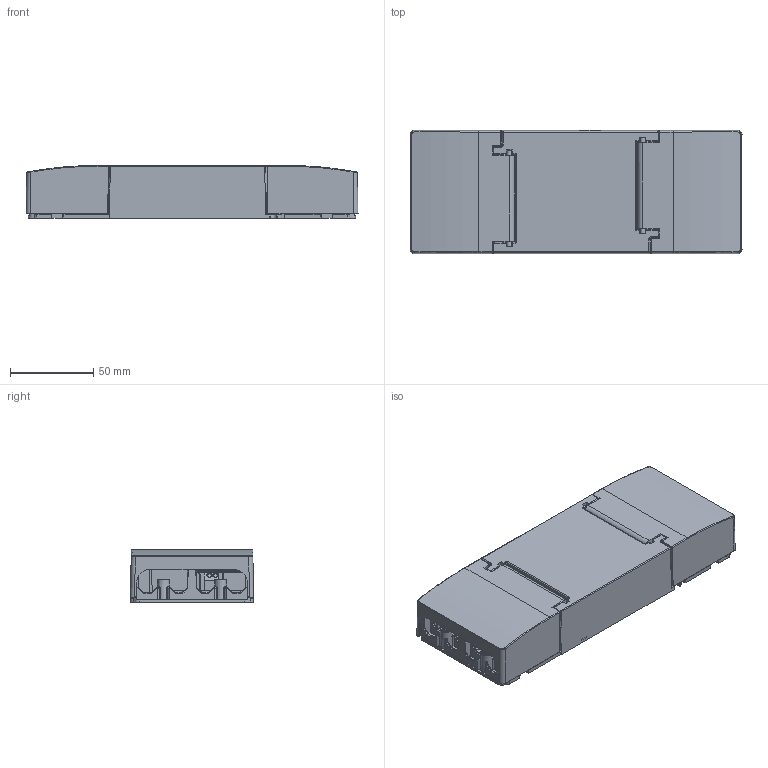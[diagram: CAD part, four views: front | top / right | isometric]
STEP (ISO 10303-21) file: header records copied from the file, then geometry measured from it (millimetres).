
FILE_DESCRIPTION(/* description */ (''),/* implementation_level */ '2;1');
FILE_NAME(/* name */ 'C:\Data\Vault\LE-TPD\9290 009 91800 Xitanium 50W WH 0.7-1.5A 54V TDIs 230V Sirius 50W\9290-009-91800_independent_derived.stp',/* time_stamp */ '2016-06-29T13:48:58+02:00',/* author */ ('nly19266'),/* organization */ (''),/* preprocessor_version */ 'ST-DEVELOPER v15.2',/* originating_system */ 'Autodesk Inventor 2014',/* authorisation */ '');
FILE_SCHEMA (('AUTOMOTIVE_DESIGN { 1 0 10303 214 3 1 1 }'));
Products named in the file (1): 9290-009-91800_independent_derived
Bounding box: 200 x 74.29 x 31.8 mm (x, y, z)
Volume: 253425.4 mm3; surface area: 119579.4 mm2
Topology: 3 solids, 27 shells, 6261 faces, 16846 edges, 10716 vertices
Faces by surface type: plane 3504, cylinder 1339, bspline 1051, cone 147, sphere 141, torus 79
Full cylindrical faces by diameter (mm): 2.2 x6, 2.5 x4, 3 x4, 3.5 x3, 4.256 x2, 4.4 x6, 5 x2, 5.117 x2, 5.39 x2, 5.929 x2, 6 x6, 8 x2
Entity records: 211147 total; most frequent: CARTESIAN_POINT 53770, ORIENTED_EDGE 33132, DIRECTION 28594, EDGE_CURVE 16608, LINE 11136, VECTOR 11136, VERTEX_POINT 10688, AXIS2_PLACEMENT_3D 8729
